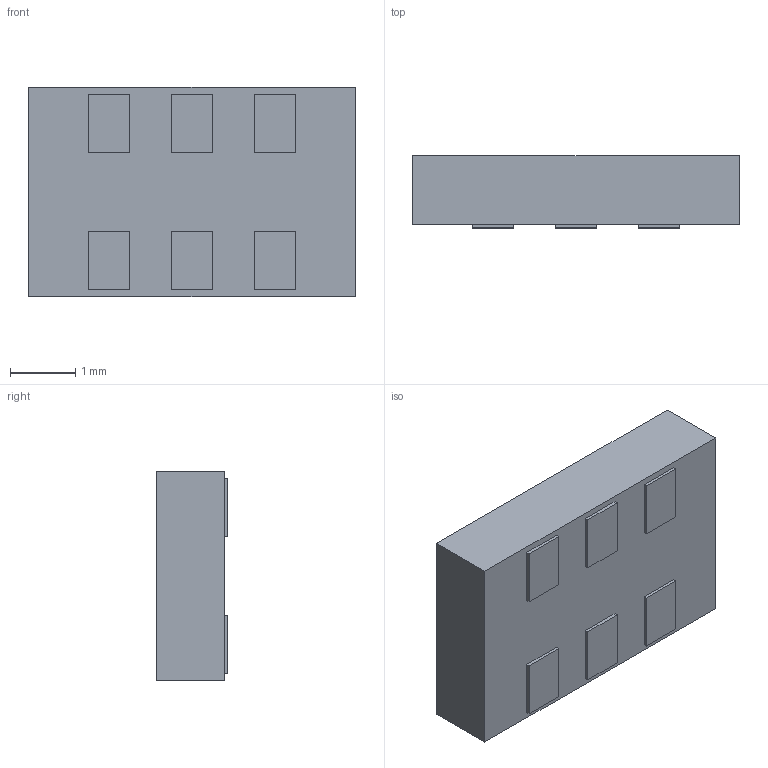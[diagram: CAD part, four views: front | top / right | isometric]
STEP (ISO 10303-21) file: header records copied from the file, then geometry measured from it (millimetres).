
FILE_DESCRIPTION (( 'STEP AP214' ), '1' );
FILE_NAME ( 'PSON6P127_500X320X110L90X64.STEP', '2021-10-06T06:49:13', ( '' ), ( '' ), '', '©2017 PCB Libraries, Inc.', '' );
FILE_SCHEMA (( 'AUTOMOTIVE_DESIGN' ));
Length unit declared in the file: millimetre
Products named in the file (1): PSON6P127_500X320X110L90X64
Bounding box: 5 x 1.1 x 3.2 mm (x, y, z)
Volume: 17 mm3; surface area: 57.1 mm2
Topology: 7 solids, 7 shells, 45 faces, 90 edges, 60 vertices
Faces by surface type: plane 43, torus 2
Entity records: 1379 total; most frequent: CARTESIAN_POINT 196, DIRECTION 188, ORIENTED_EDGE 180, EDGE_CURVE 90, VECTOR 84, LINE 84, VERTEX_POINT 60, STYLED_ITEM 53
